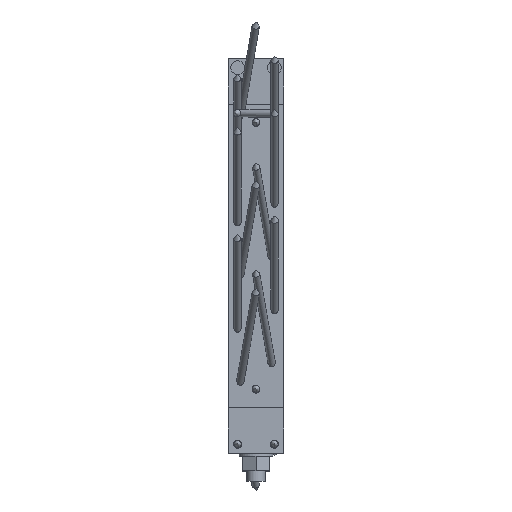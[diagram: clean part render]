
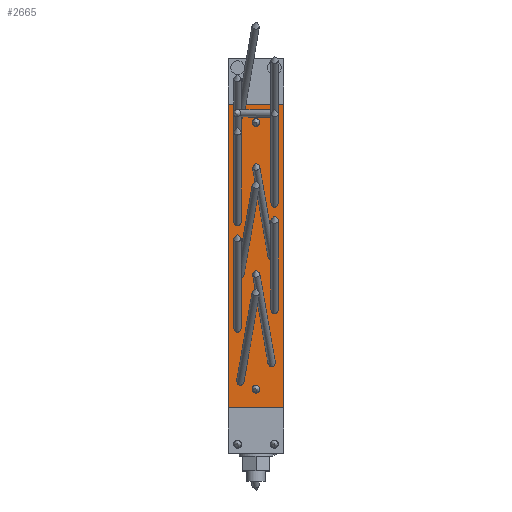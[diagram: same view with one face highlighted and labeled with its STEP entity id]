
A CAD part, top view. The second image highlights one B-rep face of the part: STEP entity #2665.
In plain terms, the highlighted planar face has unit normal (0, 0, 1) as drawn and (0, 0, -1) by its records, which use the part's own axes.
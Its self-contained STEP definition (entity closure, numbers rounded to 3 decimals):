
#288=CIRCLE('',#3137,4.25);
#289=CIRCLE('',#3138,4.25);
#374=ELLIPSE('',#3125,6.103,4.25);
#375=ELLIPSE('',#3126,6.103,4.25);
#376=ELLIPSE('',#3127,6.103,4.25);
#377=ELLIPSE('',#3128,6.01,4.25);
#378=ELLIPSE('',#3129,6.01,4.25);
#379=ELLIPSE('',#3130,6.103,4.25);
#380=ELLIPSE('',#3131,6.103,4.25);
#381=ELLIPSE('',#3132,4.316,4.25);
#382=ELLIPSE('',#3133,6.01,4.25);
#383=ELLIPSE('',#3134,6.01,4.25);
#384=ELLIPSE('',#3135,6.01,4.25);
#385=ELLIPSE('',#3136,6.01,4.25);
#473=ORIENTED_EDGE('',*,*,#1097,.F.);
#474=ORIENTED_EDGE('',*,*,#1098,.F.);
#475=ORIENTED_EDGE('',*,*,#1099,.F.);
#476=ORIENTED_EDGE('',*,*,#1100,.F.);
#477=ORIENTED_EDGE('',*,*,#1101,.F.);
#478=ORIENTED_EDGE('',*,*,#1102,.F.);
#479=ORIENTED_EDGE('',*,*,#1103,.F.);
#480=ORIENTED_EDGE('',*,*,#1104,.F.);
#481=ORIENTED_EDGE('',*,*,#1105,.F.);
#482=ORIENTED_EDGE('',*,*,#1106,.F.);
#483=ORIENTED_EDGE('',*,*,#1107,.F.);
#484=ORIENTED_EDGE('',*,*,#1108,.F.);
#485=ORIENTED_EDGE('',*,*,#1109,.F.);
#486=ORIENTED_EDGE('',*,*,#1110,.F.);
#487=ORIENTED_EDGE('',*,*,#1111,.F.);
#488=ORIENTED_EDGE('',*,*,#1112,.T.);
#489=ORIENTED_EDGE('',*,*,#1113,.T.);
#490=ORIENTED_EDGE('',*,*,#1095,.F.);
#1095=EDGE_CURVE('',#1404,#1405,#1641,.T.);
#1097=EDGE_CURVE('',#1406,#1406,#374,.T.);
#1098=EDGE_CURVE('',#1407,#1407,#375,.T.);
#1099=EDGE_CURVE('',#1408,#1408,#376,.T.);
#1100=EDGE_CURVE('',#1409,#1409,#377,.T.);
#1101=EDGE_CURVE('',#1410,#1410,#378,.T.);
#1102=EDGE_CURVE('',#1411,#1411,#379,.T.);
#1103=EDGE_CURVE('',#1412,#1412,#380,.T.);
#1104=EDGE_CURVE('',#1413,#1413,#381,.T.);
#1105=EDGE_CURVE('',#1414,#1414,#382,.T.);
#1106=EDGE_CURVE('',#1415,#1415,#383,.T.);
#1107=EDGE_CURVE('',#1416,#1416,#384,.T.);
#1108=EDGE_CURVE('',#1417,#1417,#385,.T.);
#1109=EDGE_CURVE('',#1418,#1418,#288,.T.);
#1110=EDGE_CURVE('',#1419,#1419,#289,.T.);
#1111=EDGE_CURVE('',#1420,#1404,#1643,.T.);
#1112=EDGE_CURVE('',#1420,#1421,#1644,.T.);
#1113=EDGE_CURVE('',#1421,#1405,#1645,.T.);
#1404=VERTEX_POINT('',#4388);
#1405=VERTEX_POINT('',#4390);
#1406=VERTEX_POINT('',#4394);
#1407=VERTEX_POINT('',#4396);
#1408=VERTEX_POINT('',#4398);
#1409=VERTEX_POINT('',#4400);
#1410=VERTEX_POINT('',#4402);
#1411=VERTEX_POINT('',#4404);
#1412=VERTEX_POINT('',#4406);
#1413=VERTEX_POINT('',#4408);
#1414=VERTEX_POINT('',#4410);
#1415=VERTEX_POINT('',#4412);
#1416=VERTEX_POINT('',#4414);
#1417=VERTEX_POINT('',#4416);
#1418=VERTEX_POINT('',#4418);
#1419=VERTEX_POINT('',#4420);
#1420=VERTEX_POINT('',#4422);
#1421=VERTEX_POINT('',#4424);
#1641=LINE('',#4389,#1853);
#1643=LINE('',#4421,#1855);
#1644=LINE('',#4423,#1856);
#1645=LINE('',#4425,#1857);
#1853=VECTOR('',#3516,1000.);
#1855=VECTOR('',#3548,1000.);
#1856=VECTOR('',#3549,1000.);
#1857=VECTOR('',#3550,1000.);
#2037=EDGE_LOOP('',(#473));
#2038=EDGE_LOOP('',(#474));
#2039=EDGE_LOOP('',(#475));
#2040=EDGE_LOOP('',(#476));
#2041=EDGE_LOOP('',(#477));
#2042=EDGE_LOOP('',(#478));
#2043=EDGE_LOOP('',(#479));
#2044=EDGE_LOOP('',(#480));
#2045=EDGE_LOOP('',(#481));
#2046=EDGE_LOOP('',(#482));
#2047=EDGE_LOOP('',(#483));
#2048=EDGE_LOOP('',(#484));
#2049=EDGE_LOOP('',(#485));
#2050=EDGE_LOOP('',(#486));
#2051=EDGE_LOOP('',(#487,#488,#489,#490));
#2313=FACE_BOUND('',#2037,.T.);
#2314=FACE_BOUND('',#2038,.T.);
#2315=FACE_BOUND('',#2039,.T.);
#2316=FACE_BOUND('',#2040,.T.);
#2317=FACE_BOUND('',#2041,.T.);
#2318=FACE_BOUND('',#2042,.T.);
#2319=FACE_BOUND('',#2043,.T.);
#2320=FACE_BOUND('',#2044,.T.);
#2321=FACE_BOUND('',#2045,.T.);
#2322=FACE_BOUND('',#2046,.T.);
#2323=FACE_BOUND('',#2047,.T.);
#2324=FACE_BOUND('',#2048,.T.);
#2325=FACE_BOUND('',#2049,.T.);
#2326=FACE_BOUND('',#2050,.T.);
#2327=FACE_BOUND('',#2051,.T.);
#2575=PLANE('',#3124);
#2665=ADVANCED_FACE('',(#2313,#2314,#2315,#2316,#2317,#2318,#2319,#2320,
#2321,#2322,#2323,#2324,#2325,#2326,#2327),#2575,.T.);
#3124=AXIS2_PLACEMENT_3D('',#4392,#3518,#3519);
#3125=AXIS2_PLACEMENT_3D('',#4393,#3520,#3521);
#3126=AXIS2_PLACEMENT_3D('',#4395,#3522,#3523);
#3127=AXIS2_PLACEMENT_3D('',#4397,#3524,#3525);
#3128=AXIS2_PLACEMENT_3D('',#4399,#3526,#3527);
#3129=AXIS2_PLACEMENT_3D('',#4401,#3528,#3529);
#3130=AXIS2_PLACEMENT_3D('',#4403,#3530,#3531);
#3131=AXIS2_PLACEMENT_3D('',#4405,#3532,#3533);
#3132=AXIS2_PLACEMENT_3D('',#4407,#3534,#3535);
#3133=AXIS2_PLACEMENT_3D('',#4409,#3536,#3537);
#3134=AXIS2_PLACEMENT_3D('',#4411,#3538,#3539);
#3135=AXIS2_PLACEMENT_3D('',#4413,#3540,#3541);
#3136=AXIS2_PLACEMENT_3D('',#4415,#3542,#3543);
#3137=AXIS2_PLACEMENT_3D('',#4417,#3544,#3545);
#3138=AXIS2_PLACEMENT_3D('',#4419,#3546,#3547);
#3516=DIRECTION('',(0.,-1.,0.));
#3518=DIRECTION('',(0.,0.,-1.));
#3519=DIRECTION('',(-1.,0.,0.));
#3520=DIRECTION('',(0.,0.,-1.));
#3521=DIRECTION('',(-0.171,0.985,0.));
#3522=DIRECTION('',(0.,0.,-1.));
#3523=DIRECTION('',(-0.171,0.985,0.));
#3524=DIRECTION('',(0.,0.,-1.));
#3525=DIRECTION('',(0.171,0.985,0.));
#3526=DIRECTION('',(0.,0.,-1.));
#3527=DIRECTION('',(0.,1.,0.));
#3528=DIRECTION('',(0.,0.,-1.));
#3529=DIRECTION('',(0.,1.,0.));
#3530=DIRECTION('',(0.,0.,-1.));
#3531=DIRECTION('',(0.171,0.985,0.));
#3532=DIRECTION('',(0.,0.,-1.));
#3533=DIRECTION('',(-0.171,0.985,0.));
#3534=DIRECTION('',(0.,0.,-1.));
#3535=DIRECTION('',(1.,0.,0.));
#3536=DIRECTION('',(0.,0.,-1.));
#3537=DIRECTION('',(0.,1.,0.));
#3538=DIRECTION('',(0.,0.,-1.));
#3539=DIRECTION('',(0.,1.,0.));
#3540=DIRECTION('',(0.,0.,-1.));
#3541=DIRECTION('',(0.,1.,0.));
#3542=DIRECTION('',(0.,0.,-1.));
#3543=DIRECTION('',(0.,1.,0.));
#3544=DIRECTION('',(0.,0.,-1.));
#3545=DIRECTION('',(-1.,0.,0.));
#3546=DIRECTION('',(0.,0.,-1.));
#3547=DIRECTION('',(-1.,0.,0.));
#3548=DIRECTION('',(-1.,0.,0.));
#3549=DIRECTION('',(0.,-1.,0.));
#3550=DIRECTION('',(-1.,0.,0.));
#4388=CARTESIAN_POINT('',(0.,350.,0.));
#4389=CARTESIAN_POINT('',(0.,370.,0.));
#4390=CARTESIAN_POINT('',(0.,20.,0.));
#4392=CARTESIAN_POINT('',(0.,370.,0.));
#4393=CARTESIAN_POINT('',(13.277,29.69,0.));
#4394=CARTESIAN_POINT('',(12.232,35.703,0.));
#4395=CARTESIAN_POINT('',(13.277,319.696,0.));
#4396=CARTESIAN_POINT('',(12.232,325.709,0.));
#4397=CARTESIAN_POINT('',(46.723,299.692,0.));
#4398=CARTESIAN_POINT('',(47.768,305.705,0.));
#4399=CARTESIAN_POINT('',(9.75,262.,0.));
#4400=CARTESIAN_POINT('',(9.75,268.01,0.));
#4401=CARTESIAN_POINT('',(50.25,242.,0.));
#4402=CARTESIAN_POINT('',(50.25,248.01,0.));
#4403=CARTESIAN_POINT('',(46.723,183.691,0.));
#4404=CARTESIAN_POINT('',(47.768,189.704,0.));
#4405=CARTESIAN_POINT('',(13.277,203.688,0.));
#4406=CARTESIAN_POINT('',(12.232,209.701,0.));
#4407=CARTESIAN_POINT('',(46.723,30.,0.));
#4408=CARTESIAN_POINT('',(51.039,30.,0.));
#4409=CARTESIAN_POINT('',(9.75,146.,0.));
#4410=CARTESIAN_POINT('',(9.75,152.01,0.));
#4411=CARTESIAN_POINT('',(50.25,126.,0.));
#4412=CARTESIAN_POINT('',(50.25,132.01,0.));
#4413=CARTESIAN_POINT('',(50.25,68.,0.));
#4414=CARTESIAN_POINT('',(50.25,74.01,0.));
#4415=CARTESIAN_POINT('',(9.75,88.,0.));
#4416=CARTESIAN_POINT('',(9.75,94.01,0.));
#4417=CARTESIAN_POINT('',(30.,330.,0.));
#4418=CARTESIAN_POINT('',(25.75,330.,0.));
#4419=CARTESIAN_POINT('',(30.,40.,0.));
#4420=CARTESIAN_POINT('',(25.75,40.,0.));
#4421=CARTESIAN_POINT('',(100.,350.,0.));
#4422=CARTESIAN_POINT('',(60.,350.,0.));
#4423=CARTESIAN_POINT('',(60.,370.,0.));
#4424=CARTESIAN_POINT('',(60.,20.,0.));
#4425=CARTESIAN_POINT('',(357.205,20.,0.));
